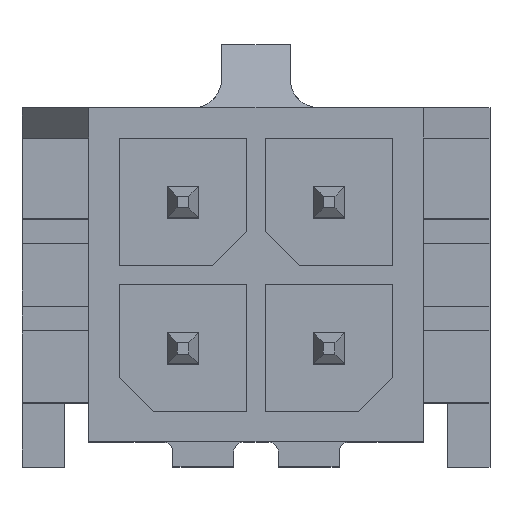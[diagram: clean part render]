
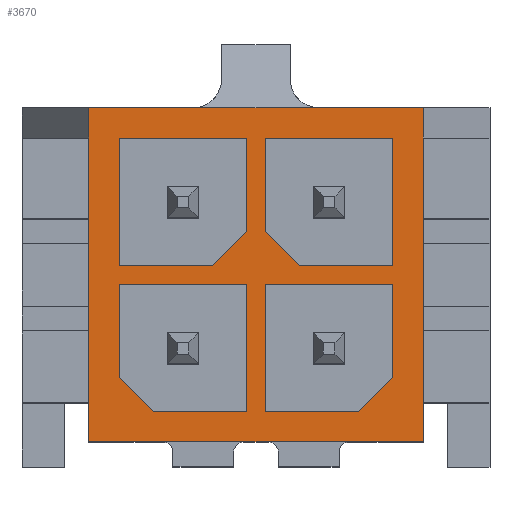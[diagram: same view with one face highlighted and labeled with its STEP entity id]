
A CAD part, top view. The second image highlights one B-rep face of the part: STEP entity #3670.
In plain terms, the highlighted planar face has unit normal (0, 0, 1).
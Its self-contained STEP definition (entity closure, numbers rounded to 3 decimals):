
#2617 = VERTEX_POINT('',#2618);
#2618 = CARTESIAN_POINT('',(3.43,2.816,9.9
    ));
#2624 = EDGE_CURVE('',#2625,#2617,#2627,.T.);
#2625 = VERTEX_POINT('',#2626);
#2626 = CARTESIAN_POINT('',(3.43,-3.414,
    9.9));
#2627 = LINE('',#2628,#2629);
#2628 = CARTESIAN_POINT('',(3.43,-3.414,
    9.9));
#2629 = VECTOR('',#2630,1.);
#2630 = DIRECTION('',(0.,1.,0.));
#2663 = EDGE_CURVE('',#2664,#2625,#2666,.T.);
#2664 = VERTEX_POINT('',#2665);
#2665 = CARTESIAN_POINT('',(-3.43,-3.414,
    9.9));
#2666 = LINE('',#2667,#2668);
#2667 = CARTESIAN_POINT('',(-3.43,-3.414,
    9.9));
#2668 = VECTOR('',#2669,1.);
#2669 = DIRECTION('',(1.,0.,0.));
#2764 = EDGE_CURVE('',#2765,#2664,#2767,.T.);
#2765 = VERTEX_POINT('',#2766);
#2766 = CARTESIAN_POINT('',(-3.43,2.816,
    9.9));
#2767 = LINE('',#2768,#2769);
#2768 = CARTESIAN_POINT('',(-3.43,-3.414,
    9.9));
#2769 = VECTOR('',#2770,1.);
#2770 = DIRECTION('',(-0.,-1.,-0.));
#3189 = VERTEX_POINT('',#3190);
#3190 = CARTESIAN_POINT('',(-3.43,3.436,
    9.9));
#3196 = EDGE_CURVE('',#3197,#3189,#3199,.T.);
#3197 = VERTEX_POINT('',#3198);
#3198 = CARTESIAN_POINT('',(3.43,3.436,9.9
    ));
#3199 = LINE('',#3200,#3201);
#3200 = CARTESIAN_POINT('',(-3.43,3.436,
    9.9));
#3201 = VECTOR('',#3202,1.);
#3202 = DIRECTION('',(-1.,-0.,-0.));
#3324 = EDGE_CURVE('',#3325,#3327,#3329,.T.);
#3325 = VERTEX_POINT('',#3326);
#3326 = CARTESIAN_POINT('',(0.19,-2.804,9.9
    ));
#3327 = VERTEX_POINT('',#3328);
#3328 = CARTESIAN_POINT('',(2.11,-2.804,
    9.9));
#3329 = LINE('',#3330,#3331);
#3330 = CARTESIAN_POINT('',(0.19,-2.804,9.9
    ));
#3331 = VECTOR('',#3332,1.);
#3332 = DIRECTION('',(1.,0.,0.));
#3357 = VERTEX_POINT('',#3358);
#3358 = CARTESIAN_POINT('',(2.81,-2.104,
    9.9));
#3364 = EDGE_CURVE('',#3357,#3365,#3367,.T.);
#3365 = VERTEX_POINT('',#3366);
#3366 = CARTESIAN_POINT('',(2.81,-0.184,
    9.9));
#3367 = LINE('',#3368,#3369);
#3368 = CARTESIAN_POINT('',(2.81,-0.184,
    9.9));
#3369 = VECTOR('',#3370,1.);
#3370 = DIRECTION('',(0.,1.,0.));
#3386 = EDGE_CURVE('',#3365,#3387,#3389,.T.);
#3387 = VERTEX_POINT('',#3388);
#3388 = CARTESIAN_POINT('',(0.19,-0.184,9.9
    ));
#3389 = LINE('',#3390,#3391);
#3390 = CARTESIAN_POINT('',(0.19,-0.184,9.9
    ));
#3391 = VECTOR('',#3392,1.);
#3392 = DIRECTION('',(-1.,0.,0.));
#3410 = EDGE_CURVE('',#3387,#3325,#3411,.T.);
#3411 = LINE('',#3412,#3413);
#3412 = CARTESIAN_POINT('',(0.19,-0.184,9.9
    ));
#3413 = VECTOR('',#3414,1.);
#3414 = DIRECTION('',(0.,-1.,0.));
#3573 = VERTEX_POINT('',#3574);
#3574 = CARTESIAN_POINT('',(-2.11,-2.804,
    9.9));
#3580 = EDGE_CURVE('',#3573,#3581,#3583,.T.);
#3581 = VERTEX_POINT('',#3582);
#3582 = CARTESIAN_POINT('',(-0.19,-2.804,
    9.9));
#3583 = LINE('',#3584,#3585);
#3584 = CARTESIAN_POINT('',(-2.81,-2.804,
    9.9));
#3585 = VECTOR('',#3586,1.);
#3586 = DIRECTION('',(1.,0.,0.));
#3602 = EDGE_CURVE('',#3581,#3603,#3605,.T.);
#3603 = VERTEX_POINT('',#3604);
#3604 = CARTESIAN_POINT('',(-0.19,-0.184,
    9.9));
#3605 = LINE('',#3606,#3607);
#3606 = CARTESIAN_POINT('',(-0.19,-0.184,
    9.9));
#3607 = VECTOR('',#3608,1.);
#3608 = DIRECTION('',(0.,1.,0.));
#3626 = EDGE_CURVE('',#3603,#3627,#3629,.T.);
#3627 = VERTEX_POINT('',#3628);
#3628 = CARTESIAN_POINT('',(-2.81,-0.184,
    9.9));
#3629 = LINE('',#3630,#3631);
#3630 = CARTESIAN_POINT('',(-2.81,-0.184,
    9.9));
#3631 = VECTOR('',#3632,1.);
#3632 = DIRECTION('',(-1.,0.,0.));
#3650 = EDGE_CURVE('',#3627,#3651,#3653,.T.);
#3651 = VERTEX_POINT('',#3652);
#3652 = CARTESIAN_POINT('',(-2.81,-2.104,
    9.9));
#3653 = LINE('',#3654,#3655);
#3654 = CARTESIAN_POINT('',(-2.81,-0.184,
    9.9));
#3655 = VECTOR('',#3656,1.);
#3656 = DIRECTION('',(0.,-1.,0.));
#3670 = ADVANCED_FACE('',(#3671,#3713,#3755,#3773,#3785),#3797,.F.);
#3671 = FACE_BOUND('',#3672,.T.);
#3672 = EDGE_LOOP('',(#3673,#3683,#3691,#3699,#3707));
#3673 = ORIENTED_EDGE('',*,*,#3674,.F.);
#3674 = EDGE_CURVE('',#3675,#3677,#3679,.T.);
#3675 = VERTEX_POINT('',#3676);
#3676 = CARTESIAN_POINT('',(0.89,0.196,9.9
    ));
#3677 = VERTEX_POINT('',#3678);
#3678 = CARTESIAN_POINT('',(2.81,0.196,9.9
    ));
#3679 = LINE('',#3680,#3681);
#3680 = CARTESIAN_POINT('',(0.19,0.196,9.9)
  );
#3681 = VECTOR('',#3682,1.);
#3682 = DIRECTION('',(1.,0.,0.));
#3683 = ORIENTED_EDGE('',*,*,#3684,.T.);
#3684 = EDGE_CURVE('',#3675,#3685,#3687,.T.);
#3685 = VERTEX_POINT('',#3686);
#3686 = CARTESIAN_POINT('',(0.19,0.896,9.9)
  );
#3687 = LINE('',#3688,#3689);
#3688 = CARTESIAN_POINT('',(0.537,0.548,9.9)
  );
#3689 = VECTOR('',#3690,1.);
#3690 = DIRECTION('',(-0.707,0.707,0.));
#3691 = ORIENTED_EDGE('',*,*,#3692,.F.);
#3692 = EDGE_CURVE('',#3693,#3685,#3695,.T.);
#3693 = VERTEX_POINT('',#3694);
#3694 = CARTESIAN_POINT('',(0.19,2.816,9.9)
  );
#3695 = LINE('',#3696,#3697);
#3696 = CARTESIAN_POINT('',(0.19,2.816,9.9)
  );
#3697 = VECTOR('',#3698,1.);
#3698 = DIRECTION('',(0.,-1.,0.));
#3699 = ORIENTED_EDGE('',*,*,#3700,.F.);
#3700 = EDGE_CURVE('',#3701,#3693,#3703,.T.);
#3701 = VERTEX_POINT('',#3702);
#3702 = CARTESIAN_POINT('',(2.81,2.816,9.9
    ));
#3703 = LINE('',#3704,#3705);
#3704 = CARTESIAN_POINT('',(0.19,2.816,9.9)
  );
#3705 = VECTOR('',#3706,1.);
#3706 = DIRECTION('',(-1.,0.,0.));
#3707 = ORIENTED_EDGE('',*,*,#3708,.F.);
#3708 = EDGE_CURVE('',#3677,#3701,#3709,.T.);
#3709 = LINE('',#3710,#3711);
#3710 = CARTESIAN_POINT('',(2.81,2.816,9.9
    ));
#3711 = VECTOR('',#3712,1.);
#3712 = DIRECTION('',(0.,1.,0.));
#3713 = FACE_BOUND('',#3714,.T.);
#3714 = EDGE_LOOP('',(#3715,#3725,#3733,#3741,#3749));
#3715 = ORIENTED_EDGE('',*,*,#3716,.F.);
#3716 = EDGE_CURVE('',#3717,#3719,#3721,.T.);
#3717 = VERTEX_POINT('',#3718);
#3718 = CARTESIAN_POINT('',(-2.81,0.196,
    9.9));
#3719 = VERTEX_POINT('',#3720);
#3720 = CARTESIAN_POINT('',(-0.89,0.196,
    9.9));
#3721 = LINE('',#3722,#3723);
#3722 = CARTESIAN_POINT('',(-2.81,0.196,
    9.9));
#3723 = VECTOR('',#3724,1.);
#3724 = DIRECTION('',(1.,0.,0.));
#3725 = ORIENTED_EDGE('',*,*,#3726,.F.);
#3726 = EDGE_CURVE('',#3727,#3717,#3729,.T.);
#3727 = VERTEX_POINT('',#3728);
#3728 = CARTESIAN_POINT('',(-2.81,2.816,
    9.9));
#3729 = LINE('',#3730,#3731);
#3730 = CARTESIAN_POINT('',(-2.81,2.816,
    9.9));
#3731 = VECTOR('',#3732,1.);
#3732 = DIRECTION('',(0.,-1.,0.));
#3733 = ORIENTED_EDGE('',*,*,#3734,.F.);
#3734 = EDGE_CURVE('',#3735,#3727,#3737,.T.);
#3735 = VERTEX_POINT('',#3736);
#3736 = CARTESIAN_POINT('',(-0.19,2.816,9.9
    ));
#3737 = LINE('',#3738,#3739);
#3738 = CARTESIAN_POINT('',(-2.81,2.816,
    9.9));
#3739 = VECTOR('',#3740,1.);
#3740 = DIRECTION('',(-1.,0.,0.));
#3741 = ORIENTED_EDGE('',*,*,#3742,.F.);
#3742 = EDGE_CURVE('',#3743,#3735,#3745,.T.);
#3743 = VERTEX_POINT('',#3744);
#3744 = CARTESIAN_POINT('',(-0.19,0.896,9.9
    ));
#3745 = LINE('',#3746,#3747);
#3746 = CARTESIAN_POINT('',(-0.19,2.816,9.9
    ));
#3747 = VECTOR('',#3748,1.);
#3748 = DIRECTION('',(0.,1.,0.));
#3749 = ORIENTED_EDGE('',*,*,#3750,.T.);
#3750 = EDGE_CURVE('',#3743,#3719,#3751,.T.);
#3751 = LINE('',#3752,#3753);
#3752 = CARTESIAN_POINT('',(-0.537,0.548,9.9)
  );
#3753 = VECTOR('',#3754,1.);
#3754 = DIRECTION('',(-0.707,-0.707,-0.));
#3755 = FACE_BOUND('',#3756,.T.);
#3756 = EDGE_LOOP('',(#3757,#3758,#3764,#3765,#3771,#3772));
#3757 = ORIENTED_EDGE('',*,*,#2624,.T.);
#3758 = ORIENTED_EDGE('',*,*,#3759,.T.);
#3759 = EDGE_CURVE('',#2617,#3197,#3760,.T.);
#3760 = LINE('',#3761,#3762);
#3761 = CARTESIAN_POINT('',(3.43,2.816,9.9
    ));
#3762 = VECTOR('',#3763,1.);
#3763 = DIRECTION('',(0.,1.,0.));
#3764 = ORIENTED_EDGE('',*,*,#3196,.T.);
#3765 = ORIENTED_EDGE('',*,*,#3766,.T.);
#3766 = EDGE_CURVE('',#3189,#2765,#3767,.T.);
#3767 = LINE('',#3768,#3769);
#3768 = CARTESIAN_POINT('',(-3.43,-3.414,
    9.9));
#3769 = VECTOR('',#3770,1.);
#3770 = DIRECTION('',(-0.,-1.,-0.));
#3771 = ORIENTED_EDGE('',*,*,#2764,.T.);
#3772 = ORIENTED_EDGE('',*,*,#2663,.T.);
#3773 = FACE_BOUND('',#3774,.T.);
#3774 = EDGE_LOOP('',(#3775,#3776,#3777,#3778,#3779));
#3775 = ORIENTED_EDGE('',*,*,#3650,.F.);
#3776 = ORIENTED_EDGE('',*,*,#3626,.F.);
#3777 = ORIENTED_EDGE('',*,*,#3602,.F.);
#3778 = ORIENTED_EDGE('',*,*,#3580,.F.);
#3779 = ORIENTED_EDGE('',*,*,#3780,.T.);
#3780 = EDGE_CURVE('',#3573,#3651,#3781,.T.);
#3781 = LINE('',#3782,#3783);
#3782 = CARTESIAN_POINT('',(-2.462,-2.452,
    9.9));
#3783 = VECTOR('',#3784,1.);
#3784 = DIRECTION('',(-0.707,0.707,0.));
#3785 = FACE_BOUND('',#3786,.T.);
#3786 = EDGE_LOOP('',(#3787,#3788,#3789,#3790,#3796));
#3787 = ORIENTED_EDGE('',*,*,#3410,.F.);
#3788 = ORIENTED_EDGE('',*,*,#3386,.F.);
#3789 = ORIENTED_EDGE('',*,*,#3364,.F.);
#3790 = ORIENTED_EDGE('',*,*,#3791,.T.);
#3791 = EDGE_CURVE('',#3357,#3327,#3792,.T.);
#3792 = LINE('',#3793,#3794);
#3793 = CARTESIAN_POINT('',(2.462,-2.452,
    9.9));
#3794 = VECTOR('',#3795,1.);
#3795 = DIRECTION('',(-0.707,-0.707,-0.));
#3796 = ORIENTED_EDGE('',*,*,#3324,.F.);
#3797 = PLANE('',#3798);
#3798 = AXIS2_PLACEMENT_3D('',#3799,#3800,#3801);
#3799 = CARTESIAN_POINT('',(0.,0.011,9.9));
#3800 = DIRECTION('',(0.,0.,-1.));
#3801 = DIRECTION('',(-1.,0.,0.));
